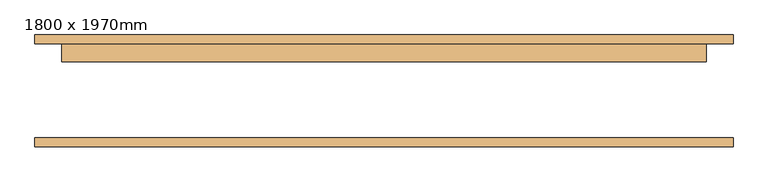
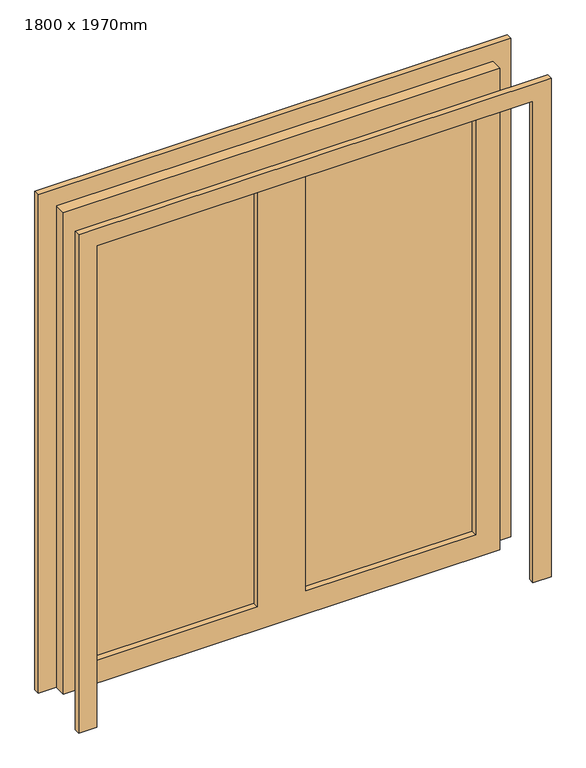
"""IFC4 building model written with IfcOpenShell, lengths in millimetres: door geometry, Dvoukridle prosklene : 1800 x 1970mm."""

from ifc_helpers import new_model, si_unit, frame, origin, place, context, project, spatial, polyline, outline, extrude, source, transform, mapped, element, save


def door_1800_x_1970mm_ce9160c6(model_context):
    return source(origin(), model_context, "Body", "SweptSolid", [
        extrude(outline(polyline([(0.0, 991.0), (2210.0, 991.0), (2210.0, -991.0), (0.0, -991.0), (0.0, -915.0), (2134.0, -915.0), (2134.0, 915.0), (0.0, 915.0), (0.0, 991.0)])), frame((0.0, -156.11875, 0.0), z_axis=(0.0, 1.0, 0.0), x_axis=(0.0, 0.0, 1.0)), (0.0, 0.0, 1.0), 25.0),
        extrude(outline(polyline([(2134.0, 915.0), (0.0, 915.0), (0.0, 991.0), (2210.0, 991.0), (2210.0, -991.0), (0.0, -991.0), (0.0, -915.0), (2134.0, -915.0), (2134.0, 915.0)])), frame((0.0, 135.88125, 0.0), z_axis=(0.0, 1.0, 0.0), x_axis=(0.0, 0.0, 1.0)), (0.0, 0.0, 1.0), 25.0),
        extrude(outline(polyline([(813.4, 110.48125), (101.6, 110.48125), (101.6, 117.625), (813.4, 117.625), (813.4, 110.48125)])), frame((0.0, 0.0, 102.0), z_axis=(0.0, 0.0, 1.0), x_axis=(1.0, 0.0, 0.0)), (0.0, 0.0, 1.0), 1930.0),
        extrude(outline(polyline([(-101.6, 110.48125), (-813.4, 110.48125), (-813.4, 117.625), (-101.6, 117.625), (-101.6, 110.48125)])), frame((0.0, 0.0, 102.0), z_axis=(0.0, 0.0, 1.0), x_axis=(1.0, 0.0, 0.0)), (0.0, 0.0, 1.0), 1930.0),
        extrude(outline(polyline([(2134.0, 915.0), (2134.0, -915.0), (0.0, -915.0), (0.0, 915.0), (2134.0, 915.0)]), holes=[polyline([(2032.0, -101.6), (102.0, -101.6), (102.0, -813.4), (2032.0, -813.4), (2032.0, -101.6)]), polyline([(2032.0, 813.4), (102.0, 813.4), (102.0, 101.6), (2032.0, 101.6), (2032.0, 813.4)])]), frame((0.0, 84.88125, 0.0), z_axis=(0.0, 1.0, 0.0), x_axis=(0.0, 0.0, 1.0)), (0.0, 0.0, 1.0), 51.0),
    ])


if __name__ == "__main__":
    model = new_model("IFC4")
    model_context = context("Model", 3, world=origin())
    ifc_project = project(units=[si_unit("LENGTHUNIT", "METRE", prefix="MILLI")], contexts=[model_context])
    site = spatial("IfcSite", under=ifc_project)
    building = spatial("IfcBuilding", under=site)
    placement = place(None, origin())
    door_1800_x_1970mm_shape = door_1800_x_1970mm_ce9160c6(model_context)
    element("IfcDoor", 1, ObjectType="Dvoukridle prosklene : 1800 x 1970mm", at=placement, inside=building, context=model_context, shape_type="MappedRepresentation", body=[
        mapped(door_1800_x_1970mm_shape, transform((0.0, 0.0, 0.0), x_axis=(1.0, 0.0, 0.0), y_axis=(0.0, 1.0, 0.0), z_axis=(0.0, 0.0, 1.0))),
    ])
    save(model, "model.ifc")
